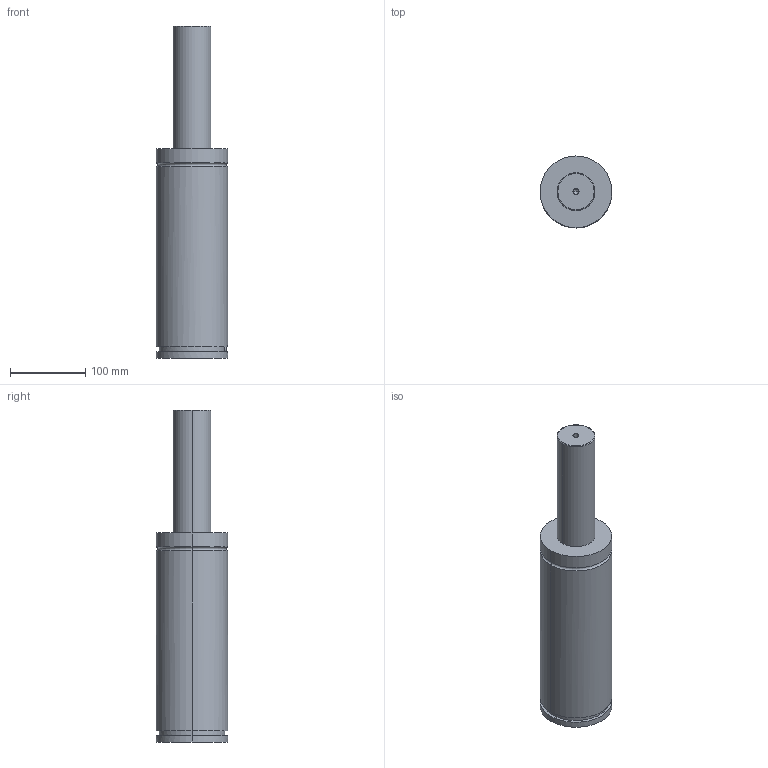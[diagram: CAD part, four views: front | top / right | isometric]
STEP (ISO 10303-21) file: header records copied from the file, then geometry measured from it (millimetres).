
FILE_DESCRIPTION(/* description */ (''),/* implementation_level */ '2;1');
FILE_NAME(/* name */ '3d_gse95-160_03859_r00.stp',/* time_stamp */ '2011-01-10T14:15:18+09:00',/* author */ ('MISUMI'),/* organization */ (''),/* preprocessor_version */ 'ST-DEVELOPER v11',/* originating_system */ 'UGS - NX 5.0',/* authorisation */ '');
FILE_SCHEMA (('CONFIG_CONTROL_DESIGN'));
Length unit declared in the file: millimetre
Products named in the file (1): 3d_gse95-160_03859_r00
Bounding box: 95 x 95 x 440 mm (x, y, z)
Volume: 2267894.5 mm3; surface area: 127742.4 mm2
Topology: 1 solids, 1 shells, 75 faces, 161 edges, 103 vertices
Faces by surface type: cylinder 34, plane 27, cone 10, torus 4
Entity records: 2145 total; most frequent: DIRECTION 393, CARTESIAN_POINT 360, ORIENTED_EDGE 318, AXIS2_PLACEMENT_3D 164, EDGE_CURVE 159, VERTEX_POINT 103, EDGE_LOOP 92, CIRCLE 88
